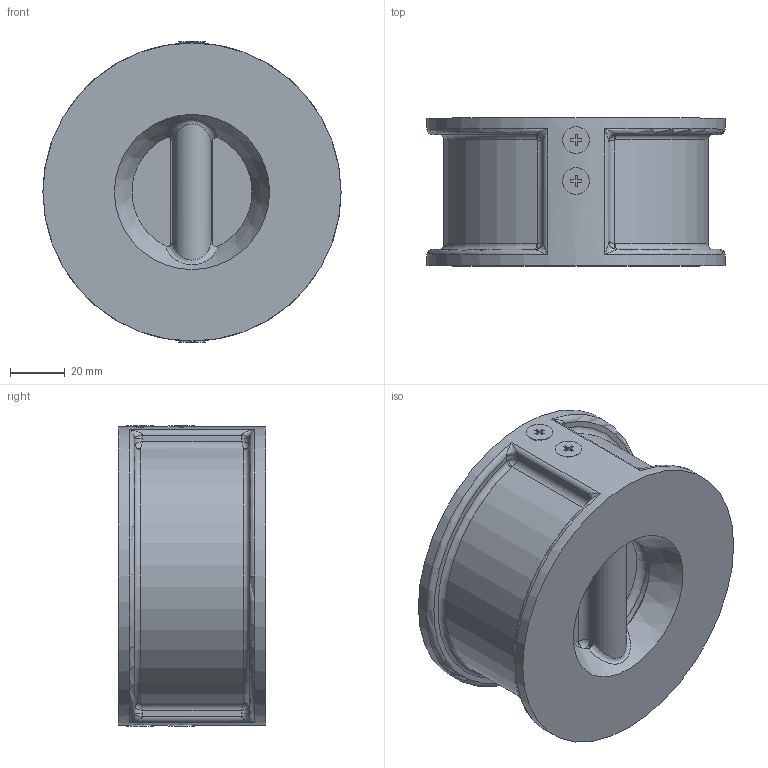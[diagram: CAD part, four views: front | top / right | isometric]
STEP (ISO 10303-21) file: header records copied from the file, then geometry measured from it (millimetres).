
FILE_DESCRIPTION(/* description */ (''),/* implementation_level */ '2;1');
FILE_NAME(/* name */ 'E:\WorkSpace\Designs\1700\1700083.stp',/* time_stamp */ '2022-09-15T13:30:27+02:00',/* author */ ('JJ'),/* organization */ (''),/* preprocessor_version */ 'ST-DEVELOPER v18.1',/* originating_system */ 'Autodesk Inventor 2022',/* authorisation */ '');
FILE_SCHEMA (('AUTOMOTIVE_DESIGN { 1 0 10303 214 3 1 1 }'));
Length unit declared in the file: millimetre
Products named in the file (1): 1700083
Bounding box: 109 x 54 x 110 mm (x, y, z)
Volume: 279242 mm3; surface area: 68335.2 mm2
Topology: 15 solids, 15 shells, 416 faces, 995 edges, 576 vertices
Faces by surface type: plane 119, cylinder 117, bspline 109, torus 36, cone 25, sphere 10
Full cylindrical faces by diameter (mm): 0.6 x2, 5 x18, 7 x4, 59 x1, 70.5 x1, 109 x1
Entity records: 32927 total; most frequent: CARTESIAN_POINT 23685, ORIENTED_EDGE 1932, DIRECTION 1684, EDGE_CURVE 966, AXIS2_PLACEMENT_3D 648, VERTEX_POINT 576, EDGE_LOOP 444, FACE_OUTER_BOUND 416
